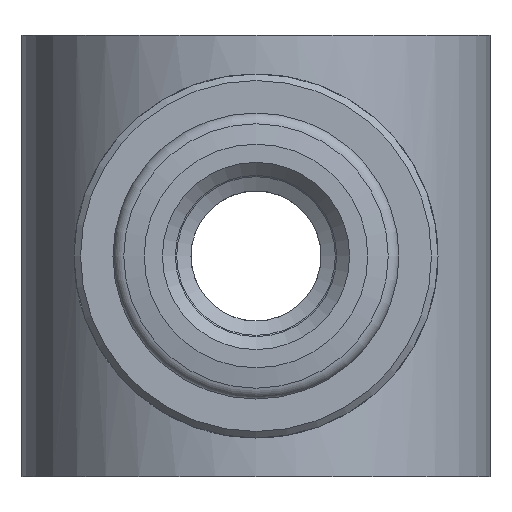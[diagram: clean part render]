
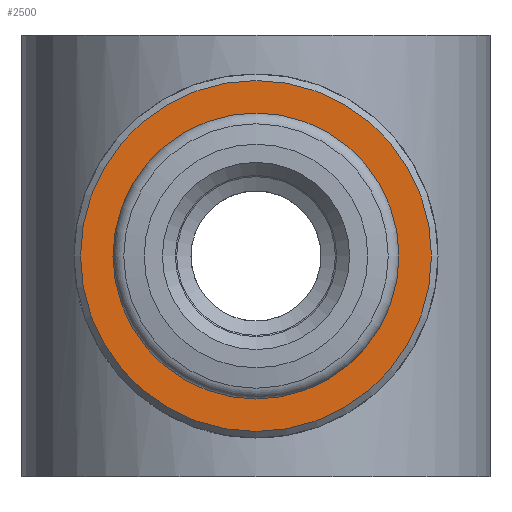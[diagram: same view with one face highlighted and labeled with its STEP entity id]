
A CAD part, left-side view. The second image highlights one B-rep face of the part: STEP entity #2500.
In plain terms, the highlighted planar face has unit normal (-1, 0, 0).
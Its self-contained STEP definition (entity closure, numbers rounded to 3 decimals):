
#2500=ADVANCED_FACE('', (#2510,#2520), #2530, .T.);
#7280=AXIS2_PLACEMENT_3D('Ax2Pl3d', #7290, #7300, #7310);
#7520=AXIS2_PLACEMENT_3D('Ax2Pl3d', #7530, #7540, #7550);
#7560=AXIS2_PLACEMENT_3D('Ax2Pl3d', #7570, #7580, #7590);
#7290=CARTESIAN_POINT('HicPkt', (21.584,20.201,12.219)
);
#35140=CARTESIAN_POINT('', (21.584,20.201,5.469));
#7530=CARTESIAN_POINT('HicPkt', (21.584,20.201,
5.469));
#7570=CARTESIAN_POINT('HicPkt', (21.584,20.201,12.219)
);
#35170=CARTESIAN_POINT('', (21.584,20.201,6.719));
#35740=CIRCLE('Circle', #7280, 6.75);
#35770=CIRCLE('Circle', #7560, 5.5);
#7300=DIRECTION('Axis', (1.,0.,0.));
#7310=DIRECTION('RefDirection', (0.,0.,-1.));
#7540=DIRECTION('Axis', (-1.,0.,0.)
);
#7550=DIRECTION('RefDirection', (0.,
0.,-1.));
#7580=DIRECTION('Axis', (1.,0.,0.));
#7590=DIRECTION('RefDirection', (0.,0.,-1.));
#38960=EDGE_CURVE('', #38970, #38970, #35740, .T.);
#39020=EDGE_CURVE('', #39030, #39030, #35770, .T.);
#41460=EDGE_LOOP('Edge_loop', (#41470));
#41480=EDGE_LOOP('Edge_loop', (#41490));
#2520=FACE_BOUND('', #41480, .T.);
#2510=FACE_OUTER_BOUND('Face_outer_bound', #41460, .T.);
#41470=ORIENTED_EDGE('', *, *, #38960, .F.);
#41490=ORIENTED_EDGE('', *, *, #39020, .T.);
#2530=PLANE('Plane', #7520);
#38970=VERTEX_POINT('', #35140);
#39030=VERTEX_POINT('', #35170);
